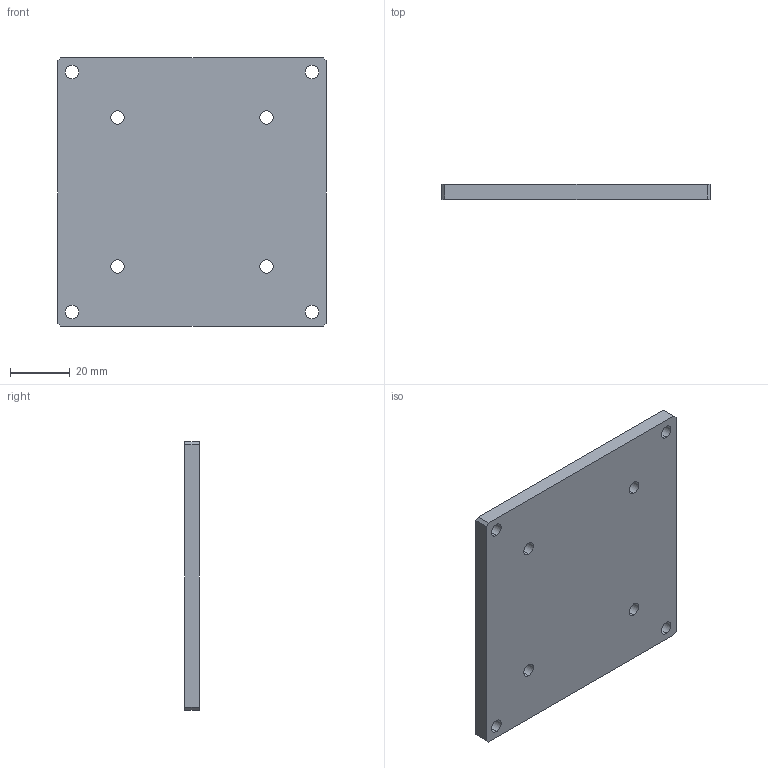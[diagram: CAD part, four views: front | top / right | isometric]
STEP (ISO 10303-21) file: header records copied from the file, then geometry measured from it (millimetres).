
FILE_DESCRIPTION (( 'STEP AP203' ), '1' );
FILE_NAME ('SS-9011-2.STEP', '2020-02-19T08:20:33', ( '' ), ( '' ), 'SwSTEP 2.0', 'SolidWorks 2016', '' );
FILE_SCHEMA (( 'CONFIG_CONTROL_DESIGN' ));
Length unit declared in the file: millimetre
Products named in the file (2): SS-9011-2; SS-9011-2-1
Assembly tree (1 placements, depth 2):
  SS-9011-2
    SS-9011-2-1
Bounding box: 90 x 5 x 90 mm (x, y, z)
Volume: 39853.8 mm3; surface area: 18295.3 mm2
Topology: 1 solids, 1 shells, 26 faces, 72 edges, 48 vertices
Faces by surface type: cylinder 16, plane 10
Entity records: 1076 total; most frequent: DIRECTION 164, CARTESIAN_POINT 150, ORIENTED_EDGE 144, EDGE_CURVE 72, AXIS2_PLACEMENT_3D 62, VERTEX_POINT 48, EDGE_LOOP 42, VECTOR 40
